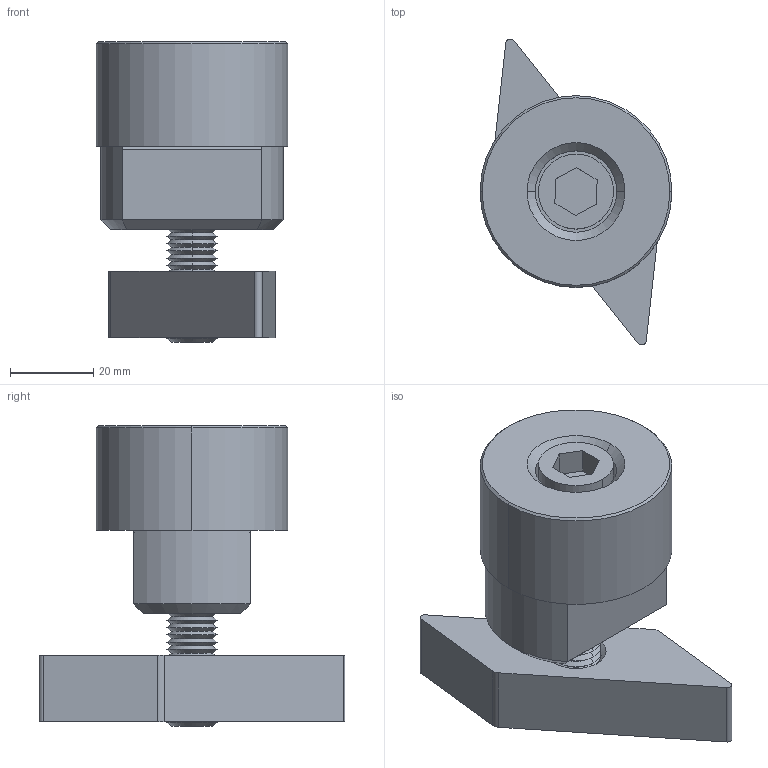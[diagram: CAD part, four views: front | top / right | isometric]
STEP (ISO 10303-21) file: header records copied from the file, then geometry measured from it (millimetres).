
FILE_DESCRIPTION (( 'STEP AP203' ), '1' );
FILE_NAME ('30200.W0128.step', '2017-06-30T11:03:31', ( 'User' ), ( '' ), 'SwSTEP 2.0', 'SolidWorks 2009', '' );
FILE_SCHEMA (( 'CONFIG_CONTROL_DESIGN' ));
Length unit declared in the file: millimetre
Products named in the file (4): Part1_30200.W0128; screw_M12x60; 30200.W0128; Wedge_30200.W0128
Assembly tree (3 placements, depth 2):
  30200.W0128
    Wedge_30200.W0128
    Part1_30200.W0128
    screw_M12x60
Bounding box: 46 x 73.35 x 72 mm (x, y, z)
Volume: 82971.4 mm3; surface area: 21175.5 mm2
Topology: 3 solids, 3 shells, 144 faces, 305 edges, 171 vertices
Faces by surface type: cone 91, plane 34, cylinder 19
Entity records: 4208 total; most frequent: DIRECTION 730, CARTESIAN_POINT 638, ORIENTED_EDGE 610, EDGE_CURVE 305, AXIS2_PLACEMENT_3D 279, VECTOR 172, LINE 172, VERTEX_POINT 171
